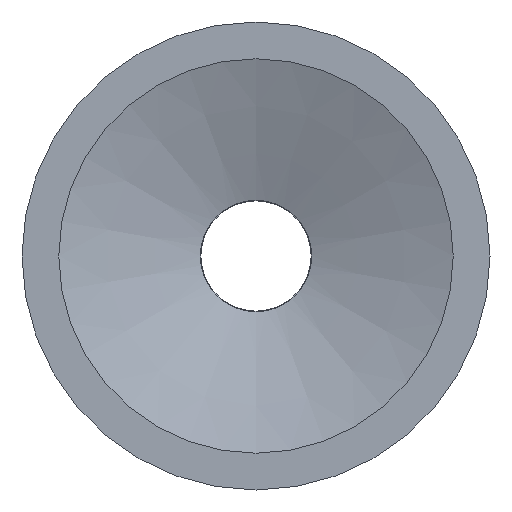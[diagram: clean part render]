
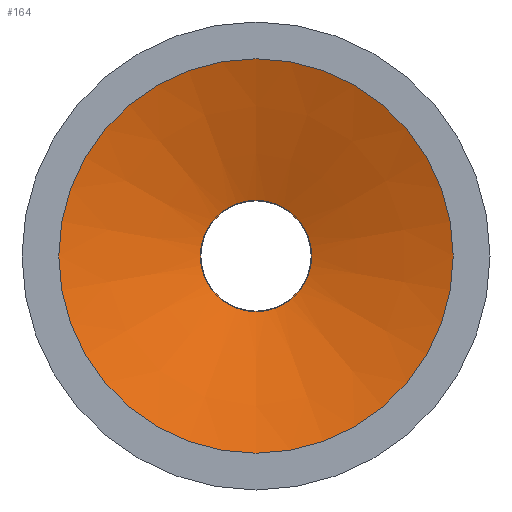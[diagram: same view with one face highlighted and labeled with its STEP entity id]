
A CAD part, front view. The second image highlights one B-rep face of the part: STEP entity #164.
In plain terms, the highlighted conical face has half-angle 70.566 degrees and reference radius 17.7 mm.
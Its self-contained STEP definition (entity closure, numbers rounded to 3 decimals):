
#14 = EDGE_CURVE ( 'NONE', #232, #232, #179, .T. ) ;
#18 = DIRECTION ( 'NONE',  ( 0., 0., -1. ) ) ;
#31 = DIRECTION ( 'NONE',  ( 0., 0., -1. ) ) ;
#37 = CARTESIAN_POINT ( 'NONE',  ( 0., 0., 0. ) ) ;
#49 = AXIS2_PLACEMENT_3D ( 'NONE', #37, #108, #76 ) ;
#50 = EDGE_LOOP ( 'NONE', ( #107 ) ) ;
#74 = CARTESIAN_POINT ( 'NONE',  ( 0., 4.5, 0. ) ) ;
#76 = DIRECTION ( 'NONE',  ( 0., 0., -1. ) ) ;
#98 = CARTESIAN_POINT ( 'NONE',  ( 0., 0., -17.7 ) ) ;
#107 = ORIENTED_EDGE ( 'NONE', *, *, #14, .F. ) ;
#108 = DIRECTION ( 'NONE',  ( 0., -1., 0. ) ) ;
#123 = CIRCLE ( 'NONE', #268, 17.7 ) ;
#159 = EDGE_LOOP ( 'NONE', ( #288 ) ) ;
#164 = ADVANCED_FACE ( 'NONE', ( #270, #192 ), #281, .F. ) ;
#167 = DIRECTION ( 'NONE',  ( 0., -1., 0. ) ) ;
#179 = CIRCLE ( 'NONE', #204, 4.946 ) ;
#192 = FACE_OUTER_BOUND ( 'NONE', #159, .T. ) ;
#204 = AXIS2_PLACEMENT_3D ( 'NONE', #74, #167, #31 ) ;
#209 = CARTESIAN_POINT ( 'NONE',  ( 0., 4.5, -4.946 ) ) ;
#232 = VERTEX_POINT ( 'NONE', #209 ) ;
#252 = VERTEX_POINT ( 'NONE', #98 ) ;
#256 = DIRECTION ( 'NONE',  ( 0., -1., 0. ) ) ;
#268 = AXIS2_PLACEMENT_3D ( 'NONE', #305, #256, #18 ) ;
#270 = FACE_BOUND ( 'NONE', #50, .T. ) ;
#281 = CONICAL_SURFACE ( 'NONE', #49, 17.7, 1.232 ) ;
#288 = ORIENTED_EDGE ( 'NONE', *, *, #310, .T. ) ;
#305 = CARTESIAN_POINT ( 'NONE',  ( 0., 0., 0. ) ) ;
#310 = EDGE_CURVE ( 'NONE', #252, #252, #123, .T. ) ;
